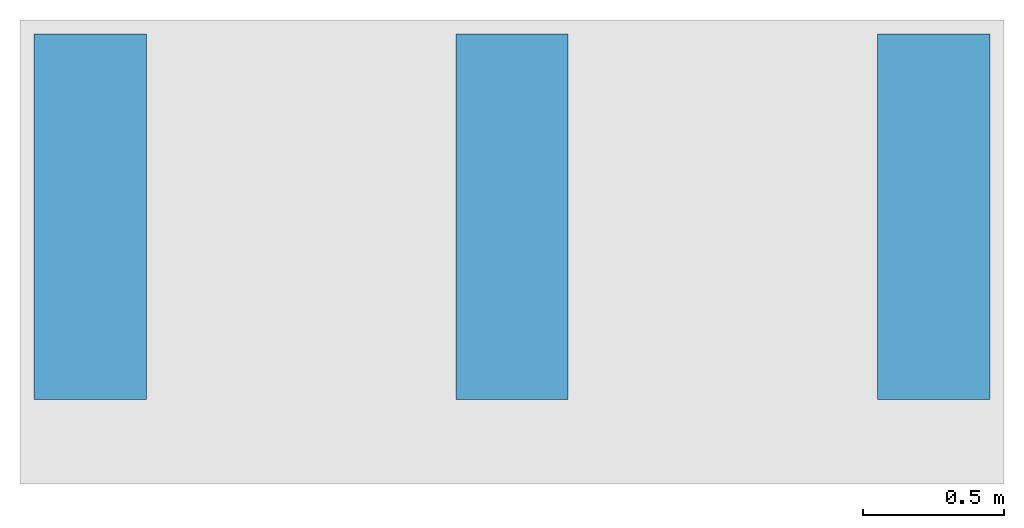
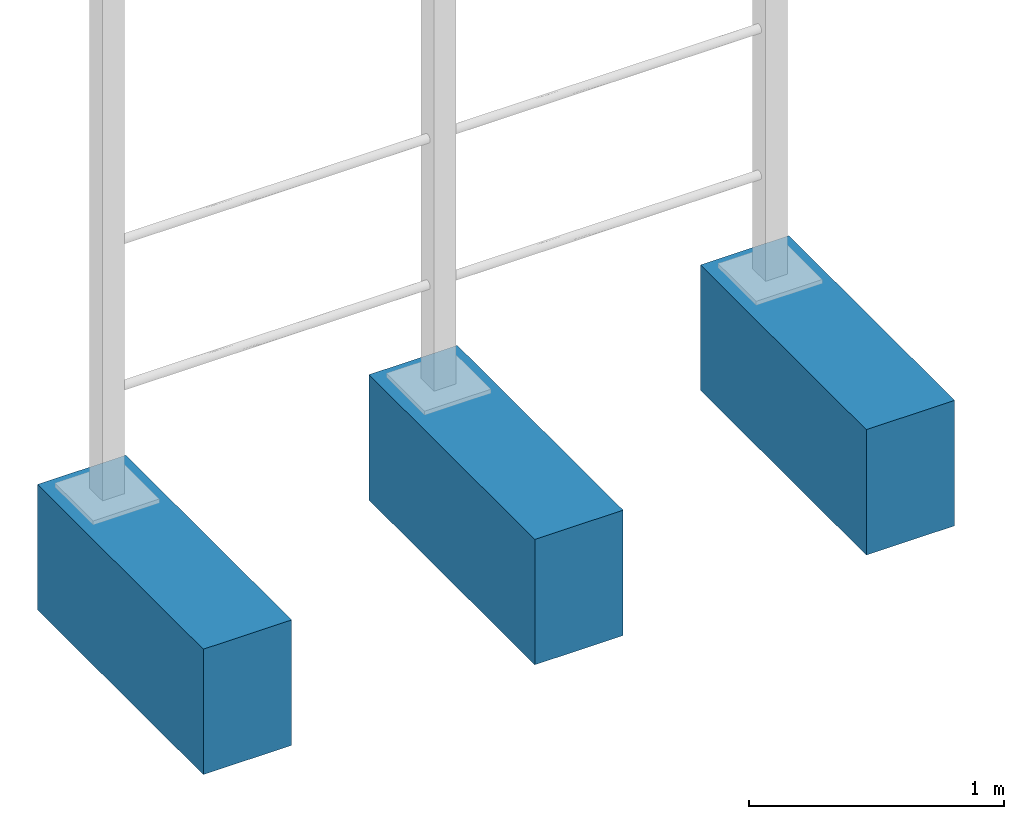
# One storey, incomplete: 1 slab.
"""IFC4 building model written with IfcOpenShell, lengths in metres."""

import ifcopenshell
import ifcopenshell.guid

model = None  # the IFC model being written
_history = None  # IfcOwnerHistory: only IFC2X3 demands one
_inside = {}  # id of a spatial element -> (the spatial element, [elements in it])
_under = {}  # id of a project, library or spatial element -> (it, [spatial elements below it])
_declared = {}  # id of a project -> (the project, [libraries it declares])
_typed = {}  # id of a type object -> (the type object, [elements of that type])
_made_of = {}  # id of a material, layer set ... -> (it, [elements and type objects made of it])


def new_model(schema):
    """Start an empty IFC model of exactly this schema.

    Asked for "IFC4X3", IfcOpenShell would pick the latest addendum, in which some entities
    have other attributes; the version numbers below select the first issue.
    IFC2X3 requires an IfcOwnerHistory on every rooted entity: one is made here for all.
    """
    global model, _history
    if schema == "IFC4X3":
        model = ifcopenshell.file(schema_version=(4, 3, 0, 0))
    else:
        model = ifcopenshell.file(schema=schema)
    _inside.clear()
    _under.clear()
    _declared.clear()
    _typed.clear()
    _made_of.clear()
    _history = None
    if model.schema == "IFC2X3":
        org = make("IfcOrganization", Name="unknown")
        user = make(
            "IfcPersonAndOrganization",
            ThePerson=make("IfcPerson", FamilyName="unknown"),
            TheOrganization=org,
        )
        app = make(
            "IfcApplication",
            ApplicationDeveloper=org,
            Version="unknown",
            ApplicationFullName="unknown",
            ApplicationIdentifier="unknown",
        )
        _history = make(
            "IfcOwnerHistory",
            OwningUser=user,
            OwningApplication=app,
            ChangeAction="ADDED",
            CreationDate=0,
        )
    return model


def make(cls, **values):
    """One entity of the class cls with the attributes given. An attribute that is None is left unset."""
    return model.create_entity(
        cls, **{name: value for name, value in values.items() if value is not None}
    )


def entity(cls, *values):
    """Any entity or typed value of the class cls, its attributes in the order of the schema. None: left unset."""
    e = model.create_entity(cls)
    for i, value in enumerate(values):
        if value is not None:
            e[i] = value
    return e


def rooted(cls, **values):
    """An entity with a GlobalId (a new one), such as an element, a storey or a relation."""
    return make(cls, GlobalId=ifcopenshell.guid.new(), OwnerHistory=_history, **values)


def si_unit(unit_type, name, prefix=None):
    """IfcSIUnit, for example si_unit("LENGTHUNIT", "METRE", prefix="MILLI")."""
    return make("IfcSIUnit", UnitType=unit_type, Prefix=prefix, Name=name)


def converted_unit(unit_type, name, factor, base, dimensions=None, offset=None):
    """IfcConversionBasedUnit, such as the inch: factor (a typed value) times the base unit."""
    return make(
        "IfcConversionBasedUnit"
        if offset is None
        else "IfcConversionBasedUnitWithOffset",
        ConversionOffset=offset,
        Dimensions=None
        if dimensions is None
        else entity("IfcDimensionalExponents", *dimensions),
        UnitType=unit_type,
        Name=name,
        ConversionFactor=make(
            "IfcMeasureWithUnit", ValueComponent=factor, UnitComponent=base
        ),
    )


def assignment(units):
    """IfcUnitAssignment: the units of a project."""
    return None if units is None else make("IfcUnitAssignment", Units=units)


def point(xyz):
    """IfcCartesianPoint."""
    return None if xyz is None else make("IfcCartesianPoint", Coordinates=xyz)


def direction(xyz):
    """IfcDirection."""
    return None if xyz is None else make("IfcDirection", DirectionRatios=xyz)


def frame(location, z_axis=None, x_axis=None):
    """IfcAxis2Placement3D, a coordinate frame: its origin and axes. An axis left out is left unset."""
    return make(
        "IfcAxis2Placement3D",
        Location=point(location),
        Axis=direction(z_axis),
        RefDirection=direction(x_axis),
    )


def frame_2d(location, x_axis=None):
    """IfcAxis2Placement2D, a coordinate frame in the plane: its origin and x axis."""
    return make(
        "IfcAxis2Placement2D", Location=point(location), RefDirection=direction(x_axis)
    )


def origin():
    """The frame at (0, 0, 0) with its axes left unset."""
    return frame((0.0, 0.0, 0.0))


def origin_2d_with_axis():
    """The frame at (0, 0) in the plane with the x axis (1, 0) written out."""
    return frame_2d((0.0, 0.0), x_axis=(1.0, 0.0))


def place(relative_to, where):
    """IfcLocalPlacement: puts the frame where relative to a parent placement (None: the world)."""
    return make(
        "IfcLocalPlacement", PlacementRelTo=relative_to, RelativePlacement=where
    )


def context(
    kind, dimensions, precision=None, world=None, true_north=None, identifier=None
):
    """IfcGeometricRepresentationContext, for example the 3D "Model" context."""
    return make(
        "IfcGeometricRepresentationContext",
        ContextIdentifier=identifier,
        ContextType=kind,
        CoordinateSpaceDimension=dimensions,
        Precision=precision,
        WorldCoordinateSystem=world,
        TrueNorth=true_north,
    )


def subcontext(parent, identifier, kind, view, scale=None):
    """IfcGeometricRepresentationSubContext, for example "Body" below "Model"."""
    return make(
        "IfcGeometricRepresentationSubContext",
        ContextIdentifier=identifier,
        ContextType=kind,
        ParentContext=parent,
        TargetScale=scale,
        TargetView=view,
    )


def project(units=None, contexts=None):
    """IfcProject with its units and contexts."""
    return rooted(
        "IfcProject",
        Name="project",
        RepresentationContexts=contexts,
        UnitsInContext=assignment(units),
    )


def spatial(cls, under=None, at=None, **own):
    """A site, building, storey or space (cls), placed at a placement, below another one or the project."""
    s = rooted(cls, ObjectPlacement=at, **own)
    if under is not None:
        _under.setdefault(under.id(), (under, []))[1].append(s)
    return s


def profile(cls, at=None, kind="AREA", **sizes):
    """A parametric profile (cls). Its sizes go by their IFC names, for example OverallWidth=200.0."""
    return make(cls, ProfileType=kind, Position=at, **sizes)


def rectangle(**sizes):
    """IfcRectangleProfileDef."""
    return profile("IfcRectangleProfileDef", **sizes)


def extrude(swept, where, along, depth):
    """IfcExtrudedAreaSolid: the profile swept, set in the frame where, extruded along a direction by depth."""
    return make(
        "IfcExtrudedAreaSolid",
        SweptArea=swept,
        Position=where,
        ExtrudedDirection=direction(along),
        Depth=depth,
    )


def shape(context_of_items, identifier, shape_type, items):
    """IfcShapeRepresentation: the items that make up one representation, for example the "Body"."""
    return make(
        "IfcShapeRepresentation",
        ContextOfItems=context_of_items,
        RepresentationIdentifier=identifier,
        RepresentationType=shape_type,
        Items=items,
    )


def material(Name=None, Category=None):
    """IfcMaterial."""
    return make("IfcMaterial", Name=Name, Category=Category)


def made_of(thing, what):
    """Note that an element or type object is made of a material, layer set ...; save() writes the relation."""
    if what is not None:
        _made_of.setdefault(what.id(), (what, []))[1].append(thing)
    return thing


def type_object(cls, material=None, **own):
    """A type object (cls), such as IfcWallType, which elements share."""
    return made_of(rooted(cls, **own), material)


def element(
    cls,
    number,
    at=None,
    inside=None,
    cuts=None,
    type_object=None,
    material=None,
    context=None,
    identifier="Body",
    shape_type=None,
    held_by="IfcProductDefinitionShape",
    body=None,
    shapes=None,
    **own,
):
    """One element of the class cls, such as IfcWall. Its Tag is "e" and its number.

    at: its placement. inside: the storey or other place that contains it. cuts: it is an
    opening in that element (IfcRelVoidsElement). A single representation is given by context,
    identifier, shape_type and body (its items); several are given by shapes. held_by: the class
    of the entity that holds the representations. save() writes the other relations.
    """
    e = rooted(cls, Tag="e%d" % number, ObjectPlacement=at, **own)
    if body is not None:
        shapes = [shape(context, identifier, shape_type, body)]
    if shapes is not None:
        e.Representation = make(held_by, Representations=shapes)
    if inside is not None:
        _inside.setdefault(inside.id(), (inside, []))[1].append(e)
    if cuts is not None:
        rooted(
            "IfcRelVoidsElement", RelatingBuildingElement=cuts, RelatedOpeningElement=e
        )
    if type_object is not None:
        _typed.setdefault(type_object.id(), (type_object, []))[1].append(e)
    return made_of(e, material)


def aggregate(whole, parts):
    """IfcRelAggregates: a whole, such as a stair, and the parts it consists of."""
    return rooted("IfcRelAggregates", RelatingObject=whole, RelatedObjects=parts)


def save(model, path):
    """Write the relations noted so far, then the file.

    IfcRelAggregates (storeys below a building ...), IfcRelContainedInSpatialStructure (elements
    in a storey), IfcRelDefinesByType, IfcRelAssociatesMaterial and IfcRelDeclares: one each for
    every whole, place, type object, material and project.
    """
    for whole, parts in _under.values():
        aggregate(whole, parts)
    for where, things in _inside.values():
        rooted(
            "IfcRelContainedInSpatialStructure",
            RelatedElements=things,
            RelatingStructure=where,
        )
    for kind, things in _typed.values():
        rooted("IfcRelDefinesByType", RelatedObjects=things, RelatingType=kind)
    for what, things in _made_of.values():
        rooted("IfcRelAssociatesMaterial", RelatedObjects=things, RelatingMaterial=what)
    for by, libraries in _declared.values():
        rooted("IfcRelDeclares", RelatingContext=by, RelatedDefinitions=libraries)
    model.write(path)


model = new_model("IFC4")

# Units and contexts
model_context = context("Model", 3, precision=1e-05, world=origin(), true_north=direction((6.123031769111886e-17, 1.0)))
body_context = subcontext(model_context, "Body", "Model", "MODEL_VIEW")
ifc_project = project(units=[si_unit("LENGTHUNIT", "METRE"), converted_unit("PLANEANGLEUNIT", "DEGREE", entity("IfcPlaneAngleMeasure", 0.017453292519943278), si_unit("PLANEANGLEUNIT", "RADIAN"), dimensions=[0, 0, 0, 0, 0, 0, 0]), si_unit("AREAUNIT", "SQUARE_METRE")], contexts=[model_context])

# Site, building, storey
site_placement = place(None, origin())
site = spatial("IfcSite", under=ifc_project, at=site_placement, Name="Default", CompositionType="ELEMENT")
building_placement = place(site_placement, origin())
building = spatial("IfcBuilding", under=site, at=building_placement, CompositionType="ELEMENT")
storey_placement = place(building_placement, origin())
storey = spatial("IfcBuildingStorey", under=building, at=storey_placement, Name="DB_Bezugshoehe_max_Bahnsteigkante", CompositionType="ELEMENT", Elevation=0.0)

# Slab
ifc_material = material(Name="DB_Ortbeton", Category="DB_Beton")
slab_type = type_object("IfcSlabType", Name="DB_FAA_Ueberdachung_Fundamanent_zweifeldrig:DB_FAA_Ueberdachung_Fundamanent_zweifeldrig", PredefinedType="BASESLAB", material=ifc_material)
slab_placement = place(storey_placement, origin())
element("IfcSlab", 1, at=slab_placement, inside=storey, type_object=slab_type, Name="DB_FAA_Ueberdachung_Fundamanent_zweifeldrig:DB_FAA_Ueberdachung_Fundamanent_zweifeldrig", ObjectType="DB_FAA_Ueberdachung_Fundamanent_zweifeldrig:DB_FAA_Ueberdachung_Fundamanent_zweifeldrig", PredefinedType="BASESLAB", context=body_context, shape_type="SweptSolid", body=[
    extrude(rectangle(XDim=1.2999999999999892, YDim=0.39999999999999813, at=frame_2d((0.0, -4.163336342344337e-17), x_axis=(1.0, 0.0))), frame((0.0, -0.4500000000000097, 0.0), z_axis=(0.0, 0.0, 1.0), x_axis=(0.0, 1.0, 0.0)), (0.0, 0.0, 1.0), 0.6000000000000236),
    extrude(rectangle(XDim=1.299999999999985, YDim=0.39999999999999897, at=origin_2d_with_axis()), frame((1.5000000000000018, -0.44999999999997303, 0.0), z_axis=(0.0, 0.0, 1.0), x_axis=(0.0, -1.0, 0.0)), (0.0, 0.0, 1.0), 0.6000000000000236),
    extrude(rectangle(XDim=1.299999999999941, YDim=0.39999999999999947, at=frame_2d((0.0, -5.412337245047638e-16), x_axis=(1.0, 0.0))), frame((3.0, -0.44999999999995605, 0.0), z_axis=(0.0, 0.0, 1.0), x_axis=(0.0, 1.0, 0.0)), (0.0, 0.0, 1.0), 0.6000000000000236),
])

save(model, "model.ifc")
